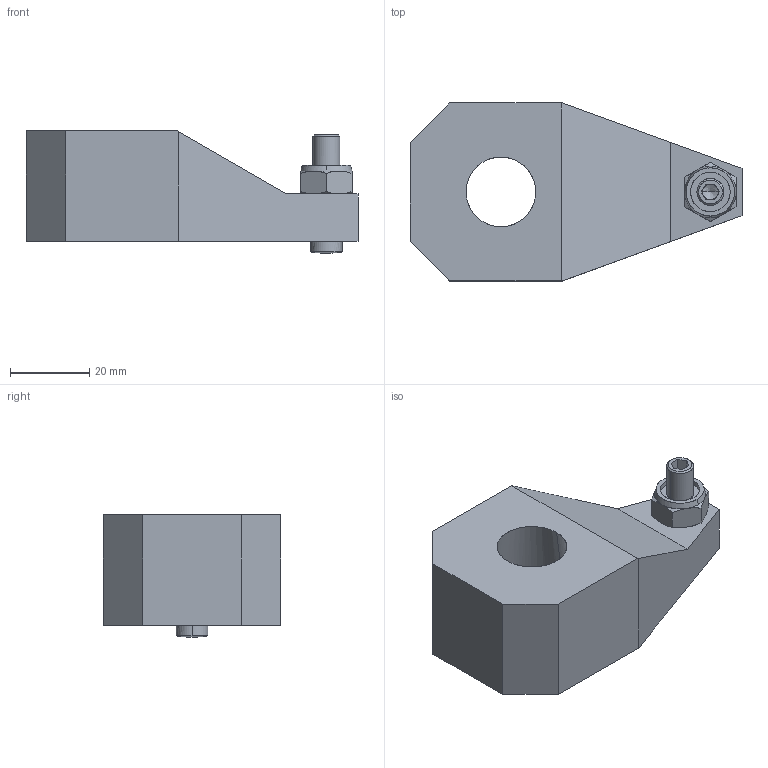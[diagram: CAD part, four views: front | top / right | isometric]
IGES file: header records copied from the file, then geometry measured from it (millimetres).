
Start section: Comment
Global section: file name: jsp40_clamparm.igs; native system:  By Spatial Corp.; preprocessor: XPlus GENERIC/IGES 3.0; author: Author; organization: Title; date: 20080526.131309; units: millimetre
Bounding box: 84 x 45 x 31 mm (x, y, z)
Surface area: 13734.7 mm2 (no closed solid volume)
Topology: 0 solids, 0 shells, 81 faces, 384 edges, 378 vertices
Faces by surface type: bspline 81
